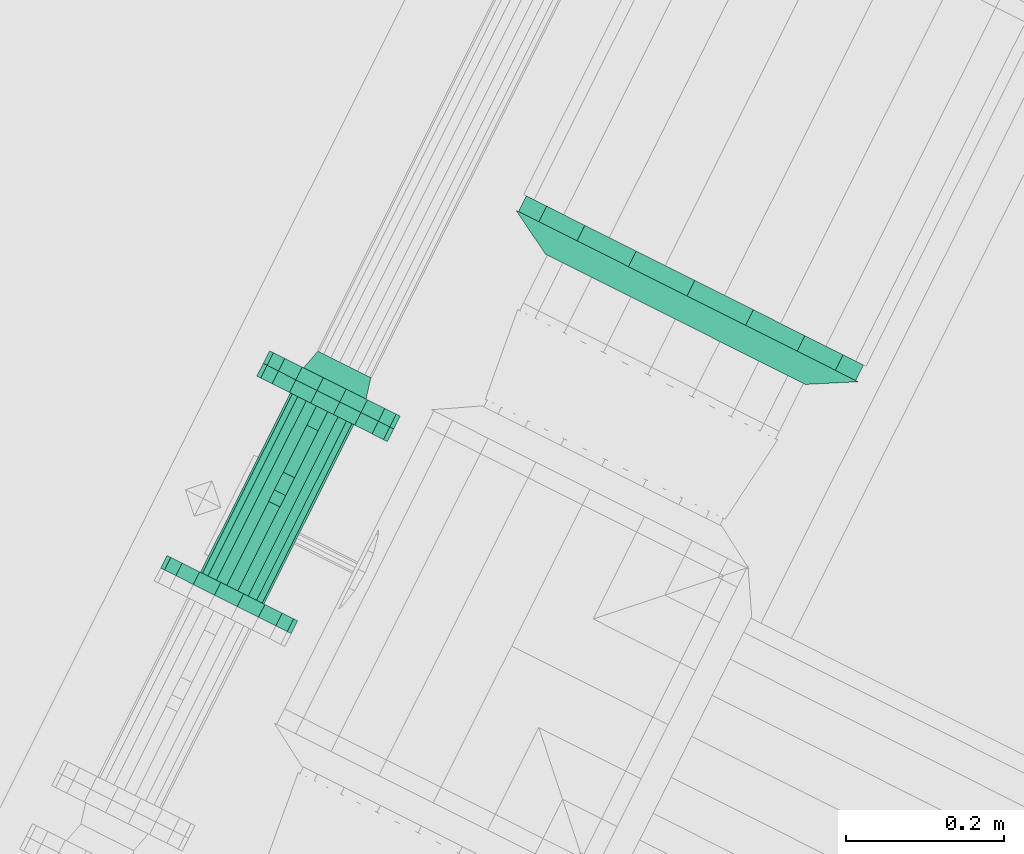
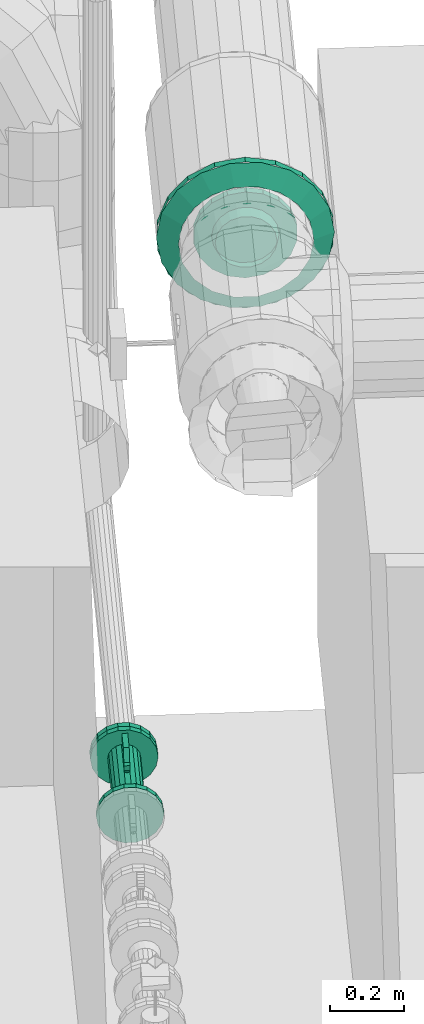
# One storey, part 127 of 206: 2 flow fittings, 1 flow controller.
"""IFC2X3 building model written with IfcOpenShell, lengths in metres."""

from ifc_helpers import new_model, si_unit, derived_unit, direction, frame, origin, place, context, subcontext, project, spatial, face_set, surface_model, source, transform, mapped, material, type_object, type_shapes, element, save


model = new_model("IFC2X3")

# Units and contexts
model_context = context("Model", 3, precision=5.2338327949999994e-05, world=origin(), true_north=direction((0.0, 1.0)))
body_context = subcontext(model_context, "Body", "Model", "MODEL_VIEW")
ifc_project = project(units=[si_unit("LENGTHUNIT", "METRE"), si_unit("AREAUNIT", "SQUARE_METRE"), si_unit("VOLUMEUNIT", "CUBIC_METRE"), si_unit("MASSUNIT", "GRAM", prefix="KILO"), si_unit("PLANEANGLEUNIT", "RADIAN"), derived_unit("THERMALTRANSMITTANCEUNIT", [(si_unit("MASSUNIT", "GRAM", prefix="KILO"), 1), (si_unit("THERMODYNAMICTEMPERATUREUNIT", "KELVIN"), -1), (si_unit("TIMEUNIT", "SECOND"), -3)])], contexts=[model_context])

# Site, building, storey
site_placement = place(None, frame((0.0, 0.0, 0.0), z_axis=(0.0, 0.0, 1.0), x_axis=(0.8939966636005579, -0.4480736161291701, 0.0)))
site = spatial("IfcSite", under=ifc_project, at=site_placement, Name="Default", CompositionType="ELEMENT")
building_placement = place(site_placement, origin())
building = spatial("IfcBuilding", under=site, at=building_placement, CompositionType="ELEMENT")
storey_placement = place(building_placement, origin())
storey = spatial("IfcBuildingStorey", under=building, at=storey_placement, Name="Erdgeschoss", CompositionType="ELEMENT", Elevation=0.0)

# Flow fitting
ifc_material_1 = material(Name="IfcSurfaceStyle #1741")
distribution_element_type_1 = type_object("IfcDistributionElementType", Name="Flansch 341150:Flansch 341150", material=ifc_material_1)
shared_shape_1 = source(origin(), body_context, "Body", "SurfaceModel", [
    surface_model("IfcFaceBasedSurfaceModel", [(25.524005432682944, 7.121892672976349, 2.353999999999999), (25.518930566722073, 7.121892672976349, 2.325219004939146), (25.52630715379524, 7.15489267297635, 2.3225341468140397), (25.531855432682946, 7.154892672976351, 2.3539999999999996), (25.504318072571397, 7.121892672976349, 2.2999094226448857), (25.51033152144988, 7.154892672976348, 2.2948635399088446), (25.481930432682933, 7.121892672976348, 2.281123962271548), (25.485855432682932, 7.154892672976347, 2.2743256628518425), (25.4544679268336, 7.121892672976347, 2.2711284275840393), (25.45583106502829, 7.154892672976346, 2.2633976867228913), (25.425242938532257, 7.121892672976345, 2.2711284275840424), (25.423879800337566, 7.154892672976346, 2.2633976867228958), (25.397780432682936, 7.121892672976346, 2.2811239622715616), (25.393855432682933, 7.154892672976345, 2.274325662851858), (25.375392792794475, 7.121892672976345, 2.29990942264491), (25.369379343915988, 7.154892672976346, 2.2948635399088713), (25.360780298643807, 7.121892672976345, 2.3252190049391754), (25.353403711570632, 7.154892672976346, 2.3225341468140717), (25.355705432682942, 7.121892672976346, 2.354000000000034), (25.34785543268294, 7.154892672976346, 2.3540000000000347), (25.360780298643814, 7.121892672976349, 2.382780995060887), (25.35340371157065, 7.154892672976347, 2.385465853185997), (25.375392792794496, 7.121892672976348, 2.4080905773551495), (25.36937934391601, 7.154892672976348, 2.4131364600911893), (25.39778043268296, 7.121892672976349, 2.4268760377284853), (25.39385543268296, 7.15489267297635, 2.433674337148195), (25.425242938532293, 7.121892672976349, 2.4368715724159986), (25.423879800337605, 7.1548926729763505, 2.444602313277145), (25.454467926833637, 7.121892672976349, 2.436871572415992), (25.455831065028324, 7.154892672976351, 2.444602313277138), (25.481930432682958, 7.121892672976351, 2.4268760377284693), (25.48585543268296, 7.154892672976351, 2.4336743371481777), (25.50431807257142, 7.121892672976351, 2.408090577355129), (25.510331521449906, 7.154892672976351, 2.4131364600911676), (25.51893056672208, 7.121892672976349, 2.382780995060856), (25.52630715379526, 7.154892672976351, 2.385465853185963), (25.488593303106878, 7.154892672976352, 2.4879061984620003), (25.5314526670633, 7.154892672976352, 2.463161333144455), (25.5314526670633, 7.176892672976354, 2.463161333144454), (25.48859330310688, 7.176892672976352, 2.4879061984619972), (25.56326405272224, 7.154892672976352, 2.425249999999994), (25.56326405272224, 7.176892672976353, 2.425249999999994), (25.58019053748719, 7.154892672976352, 2.3787448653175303), (25.58019053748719, 7.176892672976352, 2.3787448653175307), (25.58019053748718, 7.1548926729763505, 2.3292551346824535), (25.58019053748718, 7.176892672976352, 2.3292551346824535), (25.563264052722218, 7.154892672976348, 2.2827499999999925), (25.563264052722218, 7.17689267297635, 2.282749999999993), (25.53145266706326, 7.154892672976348, 2.2448386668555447), (25.531452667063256, 7.176892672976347, 2.244838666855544), (25.48859330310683, 7.154892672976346, 2.220093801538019), (25.48859330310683, 7.176892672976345, 2.220093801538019), (25.43985543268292, 7.154892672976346, 2.2115000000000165), (25.439855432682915, 7.176892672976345, 2.2115000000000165), (25.391117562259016, 7.154892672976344, 2.2200938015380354), (25.39111756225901, 7.176892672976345, 2.2200938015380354), (25.34825819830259, 7.154892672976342, 2.2448386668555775), (25.348258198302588, 7.176892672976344, 2.244838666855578), (25.316446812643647, 7.154892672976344, 2.282750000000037), (25.31644681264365, 7.176892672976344, 2.282750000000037), (25.299520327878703, 7.154892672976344, 2.329255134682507), (25.299520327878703, 7.176892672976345, 2.3292551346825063), (25.299520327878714, 7.154892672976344, 2.3787448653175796), (25.299520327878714, 7.176892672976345, 2.3787448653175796), (25.31644681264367, 7.154892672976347, 2.425250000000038), (25.316446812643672, 7.176892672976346, 2.4252500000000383), (25.34825819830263, 7.154892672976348, 2.463161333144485), (25.34825819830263, 7.17689267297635, 2.4631613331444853), (25.391117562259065, 7.1548926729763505, 2.4879061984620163), (25.391117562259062, 7.176892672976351, 2.4879061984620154), (25.43985543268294, 7.154892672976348, 2.354000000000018), (25.439855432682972, 7.1548926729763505, 2.4965000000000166), (25.624005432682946, 7.121892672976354, 2.3539999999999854), (25.61289982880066, 7.121892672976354, 2.291016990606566), (25.667730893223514, 7.154892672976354, 2.2710601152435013), (25.682355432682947, 7.154892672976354, 2.3539999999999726), (25.58092251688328, 7.12189267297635, 2.235630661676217), (25.625621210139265, 7.15489267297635, 2.198124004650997), (25.531930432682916, 7.121892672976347, 2.1945214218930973), (25.561105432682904, 7.154892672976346, 2.143988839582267), (25.47183274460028, 7.121892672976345, 2.1726476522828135), (25.48196511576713, 7.154892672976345, 2.1151841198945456), (25.40787812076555, 7.121892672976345, 2.1726476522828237), (25.397745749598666, 7.154892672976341, 2.115184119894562), (25.347780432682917, 7.121892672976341, 2.1945214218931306), (25.31860543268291, 7.154892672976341, 2.1439888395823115), (25.298788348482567, 7.121892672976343, 2.235630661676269), (25.254089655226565, 7.154892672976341, 2.1981240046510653), (25.26681103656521, 7.121892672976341, 2.2910169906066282), (25.21197997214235, 7.15489267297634, 2.2710601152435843), (25.255705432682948, 7.121892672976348, 2.354000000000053), (25.197355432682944, 7.154892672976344, 2.3540000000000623), (25.26681103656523, 7.121892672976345, 2.4169830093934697), (25.211979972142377, 7.154892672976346, 2.436939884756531), (25.29878834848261, 7.121892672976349, 2.47236933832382), (25.25408965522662, 7.15489267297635, 2.509875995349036), (25.347780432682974, 7.121892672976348, 2.5134785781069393), (25.318605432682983, 7.1548926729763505, 2.5640111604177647), (25.407878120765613, 7.12189267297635, 2.5353523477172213), (25.397745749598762, 7.154892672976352, 2.5928158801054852), (25.471832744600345, 7.121892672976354, 2.5353523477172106), (25.481965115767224, 7.154892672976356, 2.5928158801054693), (25.531930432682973, 7.1218926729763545, 2.513478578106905), (25.561105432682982, 7.154892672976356, 2.5640111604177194), (25.580922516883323, 7.1218926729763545, 2.4723693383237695), (25.625621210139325, 7.154892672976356, 2.5098759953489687), (25.612899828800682, 7.121892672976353, 2.416983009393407), (25.66773089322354, 7.154892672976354, 2.4369398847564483), (25.522795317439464, 7.154892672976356, 2.581875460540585), (25.595731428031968, 7.154892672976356, 2.539765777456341), (25.59573142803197, 7.176892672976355, 2.539765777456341), (25.522795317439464, 7.176892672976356, 2.5818754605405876), (25.6498665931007, 7.154892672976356, 2.475249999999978), (25.649866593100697, 7.176892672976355, 2.4752499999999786), (25.678671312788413, 7.154892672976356, 2.396109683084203), (25.678671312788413, 7.176892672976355, 2.3961096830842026), (25.678671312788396, 7.154892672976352, 2.3118903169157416), (25.678671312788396, 7.176892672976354, 2.3118903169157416), (25.64986659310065, 7.154892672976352, 2.2327499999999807), (25.64986659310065, 7.176892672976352, 2.2327499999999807), (25.595731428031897, 7.154892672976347, 2.168234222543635), (25.595731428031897, 7.176892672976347, 2.1682342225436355), (25.522795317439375, 7.154892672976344, 2.126124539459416), (25.522795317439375, 7.176892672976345, 2.126124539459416), (25.4398554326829, 7.154892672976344, 2.111500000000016), (25.4398554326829, 7.176892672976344, 2.1115000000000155), (25.35691554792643, 7.154892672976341, 2.1261245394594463), (25.35691554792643, 7.176892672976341, 2.126124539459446), (25.283979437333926, 7.154892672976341, 2.1682342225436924), (25.283979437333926, 7.176892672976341, 2.1682342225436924), (25.229844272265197, 7.154892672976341, 2.2327500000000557), (25.229844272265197, 7.17689267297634, 2.2327500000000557), (25.201039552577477, 7.154892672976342, 2.311890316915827), (25.201039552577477, 7.176892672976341, 2.311890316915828), (25.201039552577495, 7.154892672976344, 2.39610968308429), (25.201039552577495, 7.176892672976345, 2.39610968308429), (25.22984427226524, 7.154892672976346, 2.475250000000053), (25.22984427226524, 7.176892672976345, 2.475250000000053), (25.283979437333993, 7.154892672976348, 2.5397657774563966), (25.283979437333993, 7.17689267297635, 2.5397657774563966), (25.356915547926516, 7.154892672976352, 2.581875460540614), (25.356915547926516, 7.176892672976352, 2.581875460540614), (25.43985543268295, 7.176892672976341, 2.4965000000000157), (25.43985543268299, 7.154892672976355, 2.59650000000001), (25.43985543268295, 7.176892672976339, 2.596500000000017)], [face_set([[[0, 1, 2, 3]], [[1, 4, 5, 2]], [[4, 6, 7, 5]], [[6, 8, 9, 7]], [[8, 10, 11, 9]], [[10, 12, 13, 11]], [[12, 14, 15, 13]], [[14, 16, 17, 15]], [[16, 18, 19, 17]], [[18, 20, 21, 19]], [[20, 22, 23, 21]], [[22, 24, 25, 23]], [[24, 26, 27, 25]], [[26, 28, 29, 27]], [[28, 30, 31, 29]], [[30, 32, 33, 31]], [[32, 34, 35, 33]], [[34, 0, 3, 35]], [[36, 37, 38, 39]], [[37, 40, 41, 38]], [[40, 42, 43, 41]], [[42, 44, 45, 43]], [[44, 46, 47, 45]], [[46, 48, 49, 47]], [[48, 50, 51, 49]], [[50, 52, 53, 51]], [[52, 54, 55, 53]], [[54, 56, 57, 55]], [[56, 58, 59, 57]], [[58, 60, 61, 59]], [[60, 62, 63, 61]], [[62, 64, 65, 63]], [[64, 66, 67, 65]], [[66, 68, 69, 67]], [[70, 36, 71]], [[70, 37, 36]], [[70, 40, 37]], [[70, 42, 40]], [[70, 44, 42]], [[70, 46, 44]], [[70, 48, 46]], [[70, 50, 48]], [[70, 52, 50]], [[70, 54, 52]], [[70, 56, 54]], [[70, 58, 56]], [[70, 60, 58]], [[70, 62, 60]], [[70, 64, 62]], [[70, 66, 64]], [[70, 68, 66]], [[70, 71, 68]], [[72, 73, 74, 75]], [[73, 76, 77, 74]], [[76, 78, 79, 77]], [[78, 80, 81, 79]], [[80, 82, 83, 81]], [[82, 84, 85, 83]], [[84, 86, 87, 85]], [[86, 88, 89, 87]], [[88, 90, 91, 89]], [[90, 92, 93, 91]], [[92, 94, 95, 93]], [[94, 96, 97, 95]], [[96, 98, 99, 97]], [[98, 100, 101, 99]], [[100, 102, 103, 101]], [[102, 104, 105, 103]], [[104, 106, 107, 105]], [[106, 72, 75, 107]], [[108, 109, 110, 111]], [[109, 112, 113, 110]], [[112, 114, 115, 113]], [[114, 116, 117, 115]], [[116, 118, 119, 117]], [[118, 120, 121, 119]], [[120, 122, 123, 121]], [[122, 124, 125, 123]], [[124, 126, 127, 125]], [[126, 128, 129, 127]], [[128, 130, 131, 129]], [[130, 132, 133, 131]], [[132, 134, 135, 133]], [[134, 136, 137, 135]], [[136, 138, 139, 137]], [[138, 140, 141, 139]], [[71, 36, 39, 142]], [[68, 71, 142, 69]], [[143, 108, 111, 144]], [[140, 143, 144, 141]]])]),
])
type_shapes(distribution_element_type_1, [shared_shape_1])
flow_fitting_1_placement = place(storey_placement, origin())
element("IfcFlowFitting", 1, at=flow_fitting_1_placement, inside=storey, type_object=distribution_element_type_1, material=ifc_material_1, Name="Flansch", ObjectType="Flansch", context=body_context, shape_type="MappedRepresentation", body=[
    mapped(shared_shape_1, transform((0.0, 0.0, 0.0), scale=1.0)),
])

# Flow controller
ifc_material_2 = material(Name="IfcSurfaceStyle #352577")
distribution_element_type_2 = type_object("IfcDistributionElementType", Name="Absperrklappe 359789:Absperrklappe 359789", material=ifc_material_2)
shared_shape_2 = source(origin(), body_context, "Body", "SurfaceModel", [
    surface_model("IfcFaceBasedSurfaceModel", [(25.098640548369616, 6.692958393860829, 0.869999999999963), (25.096297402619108, 6.698615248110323, 0.869999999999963), (25.096297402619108, 6.698615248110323, 0.9219999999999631), (25.098640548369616, 6.692958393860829, 0.9219999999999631), (25.090640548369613, 6.7009583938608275, 0.869999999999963), (25.090640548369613, 6.7009583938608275, 0.9219999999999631), (25.084983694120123, 6.698615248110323, 0.869999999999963), (25.084983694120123, 6.698615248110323, 0.9219999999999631), (25.082640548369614, 6.69295839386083, 0.869999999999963), (25.082640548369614, 6.69295839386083, 0.9219999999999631), (25.084983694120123, 6.687301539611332, 0.869999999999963), (25.084983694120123, 6.687301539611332, 0.9219999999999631), (25.090640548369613, 6.684958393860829, 0.869999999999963), (25.090640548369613, 6.684958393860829, 0.9219999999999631), (25.096297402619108, 6.687301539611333, 0.869999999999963), (25.096297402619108, 6.687301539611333, 0.9219999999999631), (25.098640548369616, 6.7009583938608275, 0.9219999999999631), (25.098640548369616, 6.68495839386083, 0.9219999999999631), (25.082640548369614, 6.68495839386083, 0.9219999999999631), (25.082640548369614, 6.7009583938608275, 0.9219999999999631), (25.098640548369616, 6.68495839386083, 0.9379999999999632), (25.082640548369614, 6.68495839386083, 0.9379999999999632), (25.098640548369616, 6.7009583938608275, 0.9379999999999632), (25.082640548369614, 6.7009583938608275, 0.9379999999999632), (25.098640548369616, 6.7262917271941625, 0.9699999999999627), (25.08264054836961, 6.7262917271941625, 0.9699999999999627), (25.098640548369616, 6.792958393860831, 0.9699999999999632), (25.08264054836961, 6.792958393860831, 0.9699999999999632), (25.098640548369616, 6.792958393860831, 0.9539999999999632), (25.08264054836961, 6.792958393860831, 0.9539999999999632), (25.098640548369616, 6.7262917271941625, 0.9539999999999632), (25.08264054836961, 6.7262917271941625, 0.9539999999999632), (25.183140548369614, 6.54795839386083, 0.869999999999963), (25.17756211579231, 6.54795839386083, 0.8383631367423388), (25.17756211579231, 6.56595839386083, 0.8383631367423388), (25.183140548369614, 6.56595839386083, 0.869999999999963), (25.161499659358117, 6.54795839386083, 0.8105421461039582), (25.161499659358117, 6.56595839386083, 0.8105421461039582), (25.13689054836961, 6.54795839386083, 0.7898926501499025), (25.13689054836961, 6.56595839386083, 0.7898926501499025), (25.10670300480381, 6.54795839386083, 0.7789052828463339), (25.10670300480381, 6.56595839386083, 0.7789052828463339), (25.074578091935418, 6.54795839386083, 0.7789052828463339), (25.074578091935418, 6.56595839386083, 0.7789052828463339), (25.044390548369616, 6.54795839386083, 0.7898926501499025), (25.044390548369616, 6.56595839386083, 0.7898926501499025), (25.01978143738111, 6.54795839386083, 0.8105421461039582), (25.01978143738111, 6.56595839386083, 0.8105421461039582), (25.003718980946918, 6.54795839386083, 0.8383631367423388), (25.003718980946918, 6.56595839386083, 0.8383631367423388), (24.998140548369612, 6.54795839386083, 0.869999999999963), (24.998140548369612, 6.56595839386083, 0.869999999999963), (25.003718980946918, 6.54795839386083, 0.9016368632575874), (25.003718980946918, 6.56595839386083, 0.9016368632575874), (25.01978143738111, 6.54795839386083, 0.9294578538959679), (25.01978143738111, 6.56595839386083, 0.9294578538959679), (25.044390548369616, 6.54795839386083, 0.9501073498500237), (25.044390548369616, 6.56595839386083, 0.9501073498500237), (25.074578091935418, 6.54795839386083, 0.9610947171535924), (25.074578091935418, 6.56595839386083, 0.9610947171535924), (25.10670300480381, 6.54795839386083, 0.9610947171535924), (25.10670300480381, 6.56595839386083, 0.9610947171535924), (25.13689054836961, 6.54795839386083, 0.9501073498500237), (25.13689054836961, 6.56595839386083, 0.9501073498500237), (25.161499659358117, 6.54795839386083, 0.9294578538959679), (25.161499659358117, 6.56595839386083, 0.9294578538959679), (25.17756211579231, 6.54795839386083, 0.9016368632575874), (25.17756211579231, 6.56595839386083, 0.9016368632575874), (25.090640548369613, 6.54795839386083, 0.869999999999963), (25.090640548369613, 6.565958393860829, 0.869999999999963), (25.13564054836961, 6.56595839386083, 0.8699999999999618), (25.132926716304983, 6.56595839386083, 0.8546090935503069), (25.132926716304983, 6.819958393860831, 0.8546090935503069), (25.13564054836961, 6.819958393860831, 0.8699999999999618), (25.125112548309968, 6.56595839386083, 0.8410745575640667), (25.125112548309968, 6.819958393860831, 0.8410745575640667), (25.113140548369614, 6.56595839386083, 0.8310288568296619), (25.113140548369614, 6.819958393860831, 0.8310288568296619), (25.09845471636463, 6.56595839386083, 0.8256836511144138), (25.09845471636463, 6.819958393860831, 0.8256836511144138), (25.0828263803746, 6.56595839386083, 0.8256836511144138), (25.0828263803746, 6.819958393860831, 0.8256836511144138), (25.068140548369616, 6.56595839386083, 0.8310288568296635), (25.068140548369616, 6.819958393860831, 0.8310288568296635), (25.05616854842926, 6.56595839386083, 0.8410745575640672), (25.05616854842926, 6.819958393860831, 0.8410745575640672), (25.048354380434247, 6.56595839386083, 0.8546090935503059), (25.048354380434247, 6.819958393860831, 0.8546090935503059), (25.045640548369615, 6.56595839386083, 0.8699999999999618), (25.045640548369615, 6.819958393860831, 0.8699999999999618), (25.048354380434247, 6.56595839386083, 0.8853909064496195), (25.048354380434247, 6.819958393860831, 0.8853909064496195), (25.05616854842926, 6.56595839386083, 0.8989254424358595), (25.05616854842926, 6.819958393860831, 0.8989254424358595), (25.068140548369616, 6.56595839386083, 0.9089711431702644), (25.068140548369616, 6.819958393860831, 0.9089711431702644), (25.0828263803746, 6.56595839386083, 0.9143163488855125), (25.0828263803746, 6.819958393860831, 0.9143163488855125), (25.09845471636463, 6.56595839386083, 0.9143163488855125), (25.09845471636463, 6.819958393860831, 0.9143163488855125), (25.113140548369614, 6.56595839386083, 0.908971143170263), (25.113140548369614, 6.819958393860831, 0.908971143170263), (25.125112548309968, 6.56595839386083, 0.8989254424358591), (25.125112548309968, 6.819958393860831, 0.8989254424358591), (25.132926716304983, 6.56595839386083, 0.8853909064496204), (25.132926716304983, 6.819958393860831, 0.8853909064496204), (25.183140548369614, 6.819958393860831, 0.869999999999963), (25.17756211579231, 6.819958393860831, 0.8383631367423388), (25.17756211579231, 6.83795839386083, 0.8383631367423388), (25.183140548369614, 6.83795839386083, 0.869999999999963), (25.161499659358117, 6.819958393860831, 0.8105421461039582), (25.161499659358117, 6.83795839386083, 0.8105421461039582), (25.13689054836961, 6.819958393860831, 0.7898926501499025), (25.13689054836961, 6.83795839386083, 0.7898926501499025), (25.10670300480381, 6.819958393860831, 0.7789052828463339), (25.10670300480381, 6.83795839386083, 0.7789052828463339), (25.074578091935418, 6.819958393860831, 0.7789052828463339), (25.074578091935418, 6.83795839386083, 0.7789052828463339), (25.044390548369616, 6.819958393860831, 0.7898926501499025), (25.044390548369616, 6.83795839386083, 0.7898926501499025), (25.01978143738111, 6.819958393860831, 0.8105421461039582), (25.01978143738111, 6.83795839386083, 0.8105421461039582), (25.003718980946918, 6.819958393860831, 0.8383631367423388), (25.003718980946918, 6.83795839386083, 0.8383631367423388), (24.998140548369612, 6.819958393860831, 0.869999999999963), (24.998140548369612, 6.83795839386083, 0.869999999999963), (25.003718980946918, 6.819958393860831, 0.9016368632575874), (25.003718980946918, 6.83795839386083, 0.9016368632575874), (25.01978143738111, 6.819958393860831, 0.9294578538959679), (25.01978143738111, 6.83795839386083, 0.9294578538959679), (25.044390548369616, 6.819958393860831, 0.9501073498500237), (25.044390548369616, 6.83795839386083, 0.9501073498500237), (25.074578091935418, 6.819958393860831, 0.9610947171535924), (25.074578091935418, 6.83795839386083, 0.9610947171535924), (25.10670300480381, 6.819958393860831, 0.9610947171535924), (25.10670300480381, 6.83795839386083, 0.9610947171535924), (25.13689054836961, 6.819958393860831, 0.9501073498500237), (25.13689054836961, 6.83795839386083, 0.9501073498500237), (25.161499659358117, 6.819958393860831, 0.9294578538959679), (25.161499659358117, 6.83795839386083, 0.9294578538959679), (25.17756211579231, 6.819958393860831, 0.9016368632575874), (25.17756211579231, 6.83795839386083, 0.9016368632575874), (25.090640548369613, 6.819958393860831, 0.869999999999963), (25.090640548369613, 6.837958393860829, 0.869999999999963)], [face_set([[[0, 1, 2, 3]], [[1, 4, 5, 2]], [[4, 6, 7, 5]], [[6, 8, 9, 7]], [[8, 10, 11, 9]], [[10, 12, 13, 11]], [[12, 14, 15, 13]], [[14, 0, 3, 15]], [[16, 17, 18, 19]], [[17, 20, 21, 18]], [[20, 22, 23, 21]], [[22, 24, 25, 23]], [[24, 26, 27, 25]], [[26, 28, 29, 27]], [[28, 30, 31, 29]], [[30, 16, 19, 31]], [[18, 23, 19]], [[25, 19, 23]], [[19, 25, 31]], [[27, 31, 25]], [[31, 27, 29]], [[23, 18, 21]], [[16, 22, 17]], [[22, 16, 24]], [[30, 24, 16]], [[24, 30, 26]], [[28, 26, 30]], [[20, 17, 22]], [[32, 33, 34, 35]], [[33, 36, 37, 34]], [[36, 38, 39, 37]], [[38, 40, 41, 39]], [[40, 42, 43, 41]], [[42, 44, 45, 43]], [[44, 46, 47, 45]], [[46, 48, 49, 47]], [[48, 50, 51, 49]], [[50, 52, 53, 51]], [[52, 54, 55, 53]], [[54, 56, 57, 55]], [[56, 58, 59, 57]], [[58, 60, 61, 59]], [[60, 62, 63, 61]], [[62, 64, 65, 63]], [[64, 66, 67, 65]], [[66, 32, 35, 67]], [[68, 33, 32]], [[68, 36, 33]], [[68, 38, 36]], [[68, 40, 38]], [[68, 42, 40]], [[68, 44, 42]], [[68, 46, 44]], [[68, 48, 46]], [[68, 50, 48]], [[68, 52, 50]], [[68, 54, 52]], [[68, 56, 54]], [[68, 58, 56]], [[68, 60, 58]], [[68, 62, 60]], [[68, 64, 62]], [[68, 66, 64]], [[68, 32, 66]], [[69, 67, 35]], [[69, 65, 67]], [[69, 63, 65]], [[69, 61, 63]], [[69, 59, 61]], [[69, 57, 59]], [[69, 55, 57]], [[69, 53, 55]], [[69, 51, 53]], [[69, 49, 51]], [[69, 47, 49]], [[69, 45, 47]], [[69, 43, 45]], [[69, 41, 43]], [[69, 39, 41]], [[69, 37, 39]], [[69, 34, 37]], [[69, 35, 34]], [[70, 71, 72, 73]], [[71, 74, 75, 72]], [[74, 76, 77, 75]], [[76, 78, 79, 77]], [[78, 80, 81, 79]], [[80, 82, 83, 81]], [[82, 84, 85, 83]], [[84, 86, 87, 85]], [[86, 88, 89, 87]], [[88, 90, 91, 89]], [[90, 92, 93, 91]], [[92, 94, 95, 93]], [[94, 96, 97, 95]], [[96, 98, 99, 97]], [[98, 100, 101, 99]], [[100, 102, 103, 101]], [[102, 104, 105, 103]], [[104, 70, 73, 105]], [[106, 107, 108, 109]], [[107, 110, 111, 108]], [[110, 112, 113, 111]], [[112, 114, 115, 113]], [[114, 116, 117, 115]], [[116, 118, 119, 117]], [[118, 120, 121, 119]], [[120, 122, 123, 121]], [[122, 124, 125, 123]], [[124, 126, 127, 125]], [[126, 128, 129, 127]], [[128, 130, 131, 129]], [[130, 132, 133, 131]], [[132, 134, 135, 133]], [[134, 136, 137, 135]], [[136, 138, 139, 137]], [[138, 140, 141, 139]], [[140, 106, 109, 141]], [[142, 107, 106]], [[142, 110, 107]], [[142, 112, 110]], [[142, 114, 112]], [[142, 116, 114]], [[142, 118, 116]], [[142, 120, 118]], [[142, 122, 120]], [[142, 124, 122]], [[142, 126, 124]], [[142, 128, 126]], [[142, 130, 128]], [[142, 132, 130]], [[142, 134, 132]], [[142, 136, 134]], [[142, 138, 136]], [[142, 140, 138]], [[142, 106, 140]], [[143, 141, 109]], [[143, 139, 141]], [[143, 137, 139]], [[143, 135, 137]], [[143, 133, 135]], [[143, 131, 133]], [[143, 129, 131]], [[143, 127, 129]], [[143, 125, 127]], [[143, 123, 125]], [[143, 121, 123]], [[143, 119, 121]], [[143, 117, 119]], [[143, 115, 117]], [[143, 113, 115]], [[143, 111, 113]], [[143, 108, 111]], [[143, 109, 108]]])]),
])
type_shapes(distribution_element_type_2, [shared_shape_2])
flow_controller_placement = place(storey_placement, origin())
element("IfcFlowController", 2, at=flow_controller_placement, inside=storey, type_object=distribution_element_type_2, material=ifc_material_2, Name="Absperrklappe", ObjectType="Absperrklappe", context=body_context, shape_type="MappedRepresentation", body=[
    mapped(shared_shape_2, transform((0.0, 0.0, 0.0), scale=1.0)),
])

# Flow fitting
distribution_element_type_3 = type_object("IfcDistributionElementType", Name="Flansch 604132:Flansch 604132", material=ifc_material_2)
shared_shape_3 = source(origin(), body_context, "Body", "SurfaceModel", [
    surface_model("IfcFaceBasedSurfaceModel", [(25.090640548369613, 6.88295839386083, 0.9080499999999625), (25.07762668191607, 6.882958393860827, 0.9057553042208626), (25.075249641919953, 6.8559583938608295, 0.9122861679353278), (25.090640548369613, 6.855958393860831, 0.9149999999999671), (25.066182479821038, 6.882958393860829, 0.8991479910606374), (25.061715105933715, 6.85595839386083, 0.9044719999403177), (25.057688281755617, 6.882958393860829, 0.8890249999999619), (25.05166940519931, 6.855958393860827, 0.8924999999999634), (25.0531686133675, 6.882958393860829, 0.8766073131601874), (25.046324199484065, 6.855958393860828, 0.8778141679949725), (25.0531686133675, 6.882958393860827, 0.8633926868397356), (25.046324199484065, 6.855958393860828, 0.8621858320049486), (25.05768828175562, 6.882958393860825, 0.85097499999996), (25.051669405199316, 6.855958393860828, 0.8474999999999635), (25.066182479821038, 6.882958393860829, 0.8408520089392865), (25.061715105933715, 6.855958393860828, 0.835528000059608), (25.07762668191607, 6.882958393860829, 0.8342446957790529), (25.075249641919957, 6.85595839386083, 0.8277138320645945), (25.090640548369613, 6.88295839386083, 0.8319499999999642), (25.090640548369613, 6.85595839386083, 0.8249999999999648), (25.103654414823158, 6.882958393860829, 0.8342446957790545), (25.10603145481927, 6.85595839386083, 0.8277138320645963), (25.115098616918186, 6.88295839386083, 0.840852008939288), (25.11956599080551, 6.85595839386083, 0.8355280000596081), (25.12359281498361, 6.88295839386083, 0.8509749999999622), (25.129611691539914, 6.85595839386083, 0.8474999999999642), (25.12811248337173, 6.88295839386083, 0.863392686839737), (25.134956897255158, 6.85595839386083, 0.8621858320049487), (25.12811248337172, 6.8829583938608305, 0.8766073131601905), (25.13495689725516, 6.855958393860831, 0.8778141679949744), (25.12359281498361, 6.8829583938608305, 0.8890249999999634), (25.129611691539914, 6.85595839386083, 0.8924999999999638), (25.115098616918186, 6.882958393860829, 0.8991479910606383), (25.11956599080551, 6.85595839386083, 0.9044719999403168), (25.103654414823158, 6.882958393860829, 0.9057553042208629), (25.106031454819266, 6.855958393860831, 0.9122861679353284), (25.183140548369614, 6.855958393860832, 0.869999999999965), (25.17756211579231, 6.855958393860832, 0.9016368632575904), (25.17756211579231, 6.83795839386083, 0.9016368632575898), (25.183140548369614, 6.83795839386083, 0.8699999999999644), (25.161499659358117, 6.855958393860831, 0.9294578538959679), (25.161499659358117, 6.837958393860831, 0.9294578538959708), (25.136890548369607, 6.855958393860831, 0.950107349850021), (25.13689054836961, 6.837958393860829, 0.9501073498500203), (25.106703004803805, 6.855958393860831, 0.9610947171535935), (25.106703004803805, 6.837958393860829, 0.961094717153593), (25.074578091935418, 6.8559583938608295, 0.9610947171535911), (25.074578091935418, 6.837958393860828, 0.9610947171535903), (25.044390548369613, 6.8559583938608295, 0.9501073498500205), (25.044390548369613, 6.837958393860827, 0.95010734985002), (25.019781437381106, 6.855958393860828, 0.929457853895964), (25.019781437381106, 6.837958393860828, 0.9294578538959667), (25.003718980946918, 6.855958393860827, 0.9016368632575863), (25.003718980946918, 6.837958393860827, 0.9016368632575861), (24.99814054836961, 6.855958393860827, 0.8699999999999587), (24.99814054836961, 6.837958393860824, 0.8699999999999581), (25.00371898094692, 6.855958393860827, 0.8383631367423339), (25.00371898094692, 6.837958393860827, 0.8383631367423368), (25.01978143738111, 6.855958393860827, 0.8105421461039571), (25.01978143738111, 6.837958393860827, 0.8105421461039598), (25.044390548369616, 6.855958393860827, 0.789892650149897), (25.044390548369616, 6.837958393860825, 0.7898926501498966), (25.07457809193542, 6.8559583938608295, 0.7789052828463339), (25.07457809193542, 6.837958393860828, 0.7789052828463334), (25.106703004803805, 6.855958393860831, 0.7789052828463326), (25.106703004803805, 6.837958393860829, 0.778905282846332), (25.13689054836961, 6.8559583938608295, 0.7898926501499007), (25.13689054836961, 6.837958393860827, 0.7898926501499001), (25.161499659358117, 6.8559583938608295, 0.810542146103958), (25.161499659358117, 6.837958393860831, 0.8105421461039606), (25.17756211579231, 6.855958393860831, 0.8383631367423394), (25.17756211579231, 6.837958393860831, 0.8383631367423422), (25.090640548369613, 6.8559583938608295, 0.8699999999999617)], [face_set([[[0, 1, 2, 3]], [[1, 4, 5, 2]], [[4, 6, 7, 5]], [[6, 8, 9, 7]], [[8, 10, 11, 9]], [[10, 12, 13, 11]], [[12, 14, 15, 13]], [[14, 16, 17, 15]], [[16, 18, 19, 17]], [[18, 20, 21, 19]], [[20, 22, 23, 21]], [[22, 24, 25, 23]], [[24, 26, 27, 25]], [[26, 28, 29, 27]], [[28, 30, 31, 29]], [[30, 32, 33, 31]], [[32, 34, 35, 33]], [[34, 0, 3, 35]], [[36, 37, 38, 39]], [[37, 40, 41, 38]], [[40, 42, 43, 41]], [[42, 44, 45, 43]], [[44, 46, 47, 45]], [[46, 48, 49, 47]], [[48, 50, 51, 49]], [[50, 52, 53, 51]], [[52, 54, 55, 53]], [[54, 56, 57, 55]], [[56, 58, 59, 57]], [[58, 60, 61, 59]], [[60, 62, 63, 61]], [[62, 64, 65, 63]], [[64, 66, 67, 65]], [[66, 68, 69, 67]], [[68, 70, 71, 69]], [[70, 36, 39, 71]], [[72, 37, 36]], [[72, 40, 37]], [[72, 42, 40]], [[72, 44, 42]], [[72, 46, 44]], [[72, 48, 46]], [[72, 50, 48]], [[72, 52, 50]], [[72, 54, 52]], [[72, 56, 54]], [[72, 58, 56]], [[72, 60, 58]], [[72, 62, 60]], [[72, 64, 62]], [[72, 66, 64]], [[72, 68, 66]], [[72, 70, 68]], [[72, 36, 70]]])]),
])
type_shapes(distribution_element_type_3, [shared_shape_3])
flow_fitting_2_placement = place(storey_placement, origin())
element("IfcFlowFitting", 3, at=flow_fitting_2_placement, inside=storey, type_object=distribution_element_type_3, material=ifc_material_2, Name="Flansch", ObjectType="Flansch", context=body_context, shape_type="MappedRepresentation", body=[
    mapped(shared_shape_3, transform((0.0, 0.0, 0.0), scale=1.0)),
])

save(model, "model.ifc")
